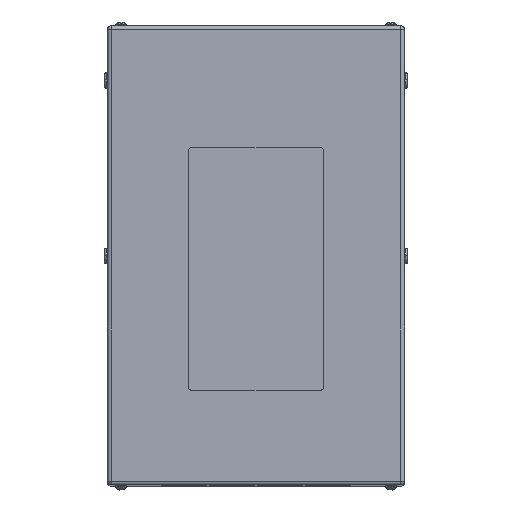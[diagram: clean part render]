
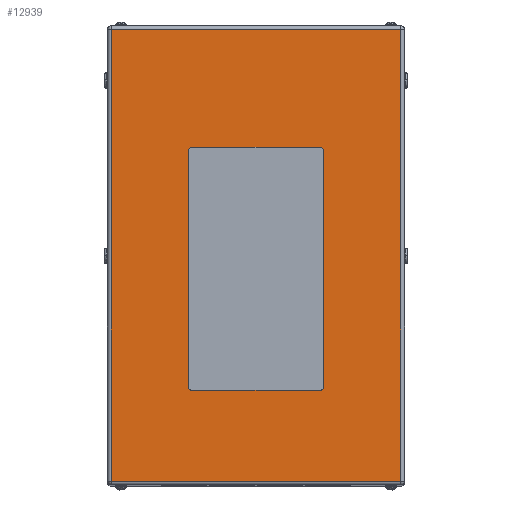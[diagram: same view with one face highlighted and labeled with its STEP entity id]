
A CAD part, top view. The second image highlights one B-rep face of the part: STEP entity #12939.
In plain terms, the highlighted planar face has unit normal (0, 0, 1).
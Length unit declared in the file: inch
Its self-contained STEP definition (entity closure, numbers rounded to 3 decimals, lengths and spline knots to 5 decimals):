
#38 = CARTESIAN_POINT ( 'NONE',  ( 11., 16.734, 27. ) ) ;
#42 = LINE ( 'NONE', #14329, #12246 ) ;
#260 = DIRECTION ( 'NONE',  ( -1., 0., 0. ) ) ;
#425 = AXIS2_PLACEMENT_3D ( 'NONE', #13744, #15028, #1126 ) ;
#986 = FACE_BOUND ( 'NONE', #6858, .T. ) ;
#1126 = DIRECTION ( 'NONE',  ( -1., 0., 0. ) ) ;
#1243 = VECTOR ( 'NONE', #260, 39.37008 ) ;
#1751 = VERTEX_POINT ( 'NONE', #15183 ) ;
#1779 = EDGE_CURVE ( 'NONE', #18737, #10544, #13199, .T. ) ;
#2170 = LINE ( 'NONE', #5474, #2815 ) ;
#2332 = ORIENTED_EDGE ( 'NONE', *, *, #5994, .F. ) ;
#2495 = DIRECTION ( 'NONE',  ( 1., 0., 0. ) ) ;
#2720 = CARTESIAN_POINT ( 'NONE',  ( -5., -9.75, 27. ) ) ;
#2815 = VECTOR ( 'NONE', #19973, 39.37008 ) ;
#2964 = AXIS2_PLACEMENT_3D ( 'NONE', #18794, #9857, #9320 ) ;
#3236 = CARTESIAN_POINT ( 'NONE',  ( 10.734, -16.734, 27. ) ) ;
#3501 = EDGE_CURVE ( 'NONE', #16349, #7275, #16907, .T. ) ;
#3514 = ORIENTED_EDGE ( 'NONE', *, *, #7344, .F. ) ;
#4044 = AXIS2_PLACEMENT_3D ( 'NONE', #23008, #8713, #5050 ) ;
#4120 = AXIS2_PLACEMENT_3D ( 'NONE', #7947, #22266, #10415 ) ;
#4284 = EDGE_CURVE ( 'NONE', #7275, #12361, #15097, .T. ) ;
#4355 = DIRECTION ( 'NONE',  ( 0., 1., 0. ) ) ;
#5050 = DIRECTION ( 'NONE',  ( 1., 0., 0. ) ) ;
#5276 = EDGE_CURVE ( 'NONE', #10544, #9829, #16213, .T. ) ;
#5293 = ORIENTED_EDGE ( 'NONE', *, *, #18266, .T. ) ;
#5474 = CARTESIAN_POINT ( 'NONE',  ( 5., 7.75, 27. ) ) ;
#5994 = EDGE_CURVE ( 'NONE', #14145, #21945, #2170, .T. ) ;
#6150 = DIRECTION ( 'NONE',  ( -1., 0., 0. ) ) ;
#6766 = AXIS2_PLACEMENT_3D ( 'NONE', #8390, #13804, #12152 ) ;
#6858 = EDGE_LOOP ( 'NONE', ( #15718, #11938, #17279, #3514, #15090, #17224, #2332, #22068 ) ) ;
#7066 = VECTOR ( 'NONE', #4355, 39.37008 ) ;
#7275 = VERTEX_POINT ( 'NONE', #11013 ) ;
#7344 = EDGE_CURVE ( 'NONE', #1751, #15995, #12026, .T. ) ;
#7481 = VERTEX_POINT ( 'NONE', #15195 ) ;
#7947 = CARTESIAN_POINT ( 'NONE',  ( -4.75, 7.75, 27. ) ) ;
#7975 = FACE_OUTER_BOUND ( 'NONE', #19342, .T. ) ;
#8385 = CARTESIAN_POINT ( 'NONE',  ( 5., 7.75, 27. ) ) ;
#8390 = CARTESIAN_POINT ( 'NONE',  ( -4.75, -9.75, 27. ) ) ;
#8450 = LINE ( 'NONE', #3236, #15890 ) ;
#8681 = DIRECTION ( 'NONE',  ( 1., 0., 0. ) ) ;
#8713 = DIRECTION ( 'NONE',  ( 0., 0., 1. ) ) ;
#9044 = DIRECTION ( 'NONE',  ( 0., -1., 0. ) ) ;
#9320 = DIRECTION ( 'NONE',  ( -1., 0., 0. ) ) ;
#9696 = ORIENTED_EDGE ( 'NONE', *, *, #11174, .T. ) ;
#9829 = VERTEX_POINT ( 'NONE', #20548 ) ;
#9857 = DIRECTION ( 'NONE',  ( 0., 0., -1. ) ) ;
#10055 = CARTESIAN_POINT ( 'NONE',  ( -4.75, -10., 27. ) ) ;
#10415 = DIRECTION ( 'NONE',  ( 1., 0., 0. ) ) ;
#10419 = CARTESIAN_POINT ( 'NONE',  ( -10.734, -16.734, 27. ) ) ;
#10544 = VERTEX_POINT ( 'NONE', #16067 ) ;
#11013 = CARTESIAN_POINT ( 'NONE',  ( -4.75, -10., 27. ) ) ;
#11174 = EDGE_CURVE ( 'NONE', #9829, #12641, #42, .T. ) ;
#11402 = CARTESIAN_POINT ( 'NONE',  ( -5., 7.75, 27. ) ) ;
#11430 = CARTESIAN_POINT ( 'NONE',  ( 10.734, -16.734, 27. ) ) ;
#11938 = ORIENTED_EDGE ( 'NONE', *, *, #3501, .F. ) ;
#12016 = VECTOR ( 'NONE', #15140, 39.37008 ) ;
#12026 = CIRCLE ( 'NONE', #4120, 0.25 ) ;
#12152 = DIRECTION ( 'NONE',  ( 1., 0., 0. ) ) ;
#12246 = VECTOR ( 'NONE', #9044, 39.37008 ) ;
#12361 = VERTEX_POINT ( 'NONE', #15848 ) ;
#12641 = VERTEX_POINT ( 'NONE', #10419 ) ;
#12939 = ADVANCED_FACE ( 'NONE', ( #986, #7975 ), #13616, .F. ) ;
#13143 = VECTOR ( 'NONE', #6150, 39.37008 ) ;
#13199 = LINE ( 'NONE', #20146, #7066 ) ;
#13363 = EDGE_CURVE ( 'NONE', #12361, #14145, #14221, .T. ) ;
#13400 = LINE ( 'NONE', #11402, #12016 ) ;
#13616 = PLANE ( 'NONE',  #2964 ) ;
#13744 = CARTESIAN_POINT ( 'NONE',  ( 4.75, 7.75, 27. ) ) ;
#13804 = DIRECTION ( 'NONE',  ( 0., 0., 1. ) ) ;
#14145 = VERTEX_POINT ( 'NONE', #18525 ) ;
#14221 = CIRCLE ( 'NONE', #4044, 0.25 ) ;
#14329 = CARTESIAN_POINT ( 'NONE',  ( -10.734, 17., 27. ) ) ;
#14890 = ORIENTED_EDGE ( 'NONE', *, *, #1779, .T. ) ;
#15028 = DIRECTION ( 'NONE',  ( 0., 0., 1. ) ) ;
#15090 = ORIENTED_EDGE ( 'NONE', *, *, #21115, .F. ) ;
#15097 = LINE ( 'NONE', #10055, #22556 ) ;
#15140 = DIRECTION ( 'NONE',  ( 0., -1., 0. ) ) ;
#15183 = CARTESIAN_POINT ( 'NONE',  ( -4.75, 8., 27. ) ) ;
#15195 = CARTESIAN_POINT ( 'NONE',  ( 4.75, 8., 27. ) ) ;
#15650 = EDGE_CURVE ( 'NONE', #15995, #16349, #13400, .T. ) ;
#15718 = ORIENTED_EDGE ( 'NONE', *, *, #4284, .F. ) ;
#15848 = CARTESIAN_POINT ( 'NONE',  ( 4.75, -10., 27. ) ) ;
#15890 = VECTOR ( 'NONE', #8681, 39.37008 ) ;
#15995 = VERTEX_POINT ( 'NONE', #20422 ) ;
#16067 = CARTESIAN_POINT ( 'NONE',  ( 10.734, 16.734, 27. ) ) ;
#16213 = LINE ( 'NONE', #38, #1243 ) ;
#16349 = VERTEX_POINT ( 'NONE', #2720 ) ;
#16769 = CARTESIAN_POINT ( 'NONE',  ( -4.75, 8., 27. ) ) ;
#16907 = CIRCLE ( 'NONE', #6766, 0.25 ) ;
#17224 = ORIENTED_EDGE ( 'NONE', *, *, #18214, .F. ) ;
#17279 = ORIENTED_EDGE ( 'NONE', *, *, #15650, .F. ) ;
#17761 = CIRCLE ( 'NONE', #425, 0.25 ) ;
#18214 = EDGE_CURVE ( 'NONE', #21945, #7481, #17761, .T. ) ;
#18266 = EDGE_CURVE ( 'NONE', #12641, #18737, #8450, .T. ) ;
#18525 = CARTESIAN_POINT ( 'NONE',  ( 5., -9.75, 27. ) ) ;
#18737 = VERTEX_POINT ( 'NONE', #11430 ) ;
#18794 = CARTESIAN_POINT ( 'NONE',  ( 11., 17., 27. ) ) ;
#19342 = EDGE_LOOP ( 'NONE', ( #9696, #5293, #14890, #22798 ) ) ;
#19973 = DIRECTION ( 'NONE',  ( 0., 1., 0. ) ) ;
#20146 = CARTESIAN_POINT ( 'NONE',  ( 10.734, 17., 27. ) ) ;
#20173 = LINE ( 'NONE', #16769, #13143 ) ;
#20422 = CARTESIAN_POINT ( 'NONE',  ( -5., 7.75, 27. ) ) ;
#20548 = CARTESIAN_POINT ( 'NONE',  ( -10.734, 16.734, 27. ) ) ;
#21115 = EDGE_CURVE ( 'NONE', #7481, #1751, #20173, .T. ) ;
#21945 = VERTEX_POINT ( 'NONE', #8385 ) ;
#22068 = ORIENTED_EDGE ( 'NONE', *, *, #13363, .F. ) ;
#22266 = DIRECTION ( 'NONE',  ( 0., 0., 1. ) ) ;
#22556 = VECTOR ( 'NONE', #2495, 39.37008 ) ;
#22798 = ORIENTED_EDGE ( 'NONE', *, *, #5276, .T. ) ;
#23008 = CARTESIAN_POINT ( 'NONE',  ( 4.75, -9.75, 27. ) ) ;
